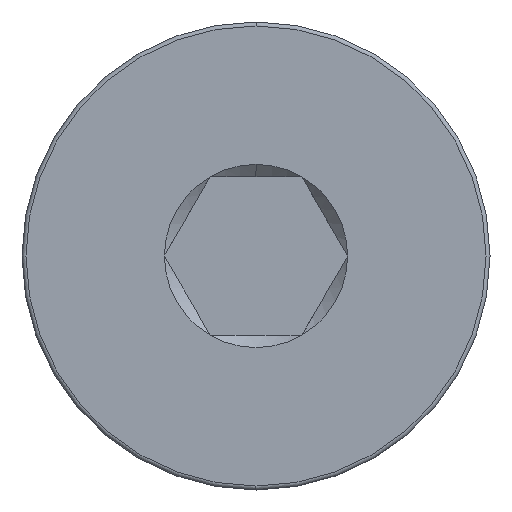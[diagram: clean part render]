
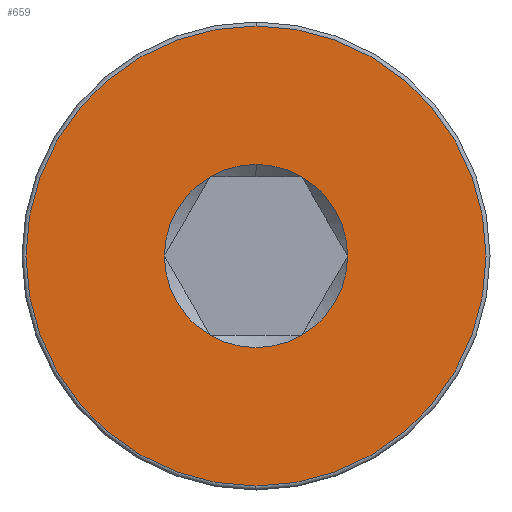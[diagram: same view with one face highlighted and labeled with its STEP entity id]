
A CAD part, left-side view. The second image highlights one B-rep face of the part: STEP entity #659.
In plain terms, the highlighted planar face has unit normal (-1, 0, 0).
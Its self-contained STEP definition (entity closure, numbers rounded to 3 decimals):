
#3 = EDGE_LOOP ( 'NONE', ( #69, #205, #587, #312, #532, #55, #679 ) ) ;
#9 = DIRECTION ( 'NONE',  ( 1., 0., 0. ) ) ;
#10 = ORIENTED_EDGE ( 'NONE', *, *, #722, .T. ) ;
#13 = CIRCLE ( 'NONE', #245, 2.309 ) ;
#22 = VERTEX_POINT ( 'NONE', #33 ) ;
#23 = DIRECTION ( 'NONE',  ( 1., 0., 0. ) ) ;
#33 = CARTESIAN_POINT ( 'NONE',  ( 0., 1.155, -2. ) ) ;
#50 = PLANE ( 'NONE',  #527 ) ;
#55 = ORIENTED_EDGE ( 'NONE', *, *, #549, .T. ) ;
#58 = FACE_OUTER_BOUND ( 'NONE', #327, .T. ) ;
#64 = DIRECTION ( 'NONE',  ( -1., 0., 0. ) ) ;
#65 = EDGE_CURVE ( 'NONE', #162, #370, #617, .T. ) ;
#69 = ORIENTED_EDGE ( 'NONE', *, *, #686, .T. ) ;
#71 = EDGE_CURVE ( 'NONE', #745, #299, #13, .T. ) ;
#76 = CARTESIAN_POINT ( 'NONE',  ( 0., 0., 0. ) ) ;
#95 = DIRECTION ( 'NONE',  ( -1., 0., 0. ) ) ;
#102 = CARTESIAN_POINT ( 'NONE',  ( 0., 0., 0. ) ) ;
#117 = CIRCLE ( 'NONE', #669, 5.8 ) ;
#124 = DIRECTION ( 'NONE',  ( 1., 0., 0. ) ) ;
#162 = VERTEX_POINT ( 'NONE', #315 ) ;
#167 = AXIS2_PLACEMENT_3D ( 'NONE', #400, #707, #645 ) ;
#169 = CARTESIAN_POINT ( 'NONE',  ( 0., 2.309, 0. ) ) ;
#176 = VERTEX_POINT ( 'NONE', #169 ) ;
#193 = AXIS2_PLACEMENT_3D ( 'NONE', #725, #124, #242 ) ;
#203 = AXIS2_PLACEMENT_3D ( 'NONE', #609, #798, #248 ) ;
#205 = ORIENTED_EDGE ( 'NONE', *, *, #318, .T. ) ;
#242 = DIRECTION ( 'NONE',  ( 0., 0., -1. ) ) ;
#245 = AXIS2_PLACEMENT_3D ( 'NONE', #102, #776, #341 ) ;
#248 = DIRECTION ( 'NONE',  ( 0., 0., -1. ) ) ;
#259 = CARTESIAN_POINT ( 'NONE',  ( 0., -2.309, 0. ) ) ;
#295 = EDGE_CURVE ( 'NONE', #22, #176, #709, .T. ) ;
#299 = VERTEX_POINT ( 'NONE', #496 ) ;
#312 = ORIENTED_EDGE ( 'NONE', *, *, #761, .T. ) ;
#315 = CARTESIAN_POINT ( 'NONE',  ( 0., 0., 5.8 ) ) ;
#317 = CARTESIAN_POINT ( 'NONE',  ( 0., 0., -5.8 ) ) ;
#318 = EDGE_CURVE ( 'NONE', #414, #426, #488, .T. ) ;
#321 = CARTESIAN_POINT ( 'NONE',  ( 0., 0., 2.309 ) ) ;
#323 = EDGE_CURVE ( 'NONE', #426, #791, #696, .T. ) ;
#327 = EDGE_LOOP ( 'NONE', ( #448, #10 ) ) ;
#341 = DIRECTION ( 'NONE',  ( 0., 0., -1. ) ) ;
#370 = VERTEX_POINT ( 'NONE', #317 ) ;
#371 = FACE_BOUND ( 'NONE', #3, .T. ) ;
#389 = DIRECTION ( 'NONE',  ( 0., 0., -1. ) ) ;
#393 = CARTESIAN_POINT ( 'NONE',  ( 0., 1.155, 2. ) ) ;
#398 = AXIS2_PLACEMENT_3D ( 'NONE', #438, #506, #389 ) ;
#400 = CARTESIAN_POINT ( 'NONE',  ( 0., 0., 0. ) ) ;
#414 = VERTEX_POINT ( 'NONE', #393 ) ;
#424 = AXIS2_PLACEMENT_3D ( 'NONE', #646, #95, #784 ) ;
#426 = VERTEX_POINT ( 'NONE', #321 ) ;
#438 = CARTESIAN_POINT ( 'NONE',  ( 0., 0., 0. ) ) ;
#448 = ORIENTED_EDGE ( 'NONE', *, *, #65, .T. ) ;
#469 = CIRCLE ( 'NONE', #742, 2.309 ) ;
#488 = CIRCLE ( 'NONE', #750, 2.309 ) ;
#491 = CIRCLE ( 'NONE', #167, 2.309 ) ;
#496 = CARTESIAN_POINT ( 'NONE',  ( 0., -1.155, -2. ) ) ;
#506 = DIRECTION ( 'NONE',  ( 1., 0., 0. ) ) ;
#527 = AXIS2_PLACEMENT_3D ( 'NONE', #608, #64, #667 ) ;
#532 = ORIENTED_EDGE ( 'NONE', *, *, #71, .T. ) ;
#540 = DIRECTION ( 'NONE',  ( -1., 0., 0. ) ) ;
#549 = EDGE_CURVE ( 'NONE', #299, #22, #491, .T. ) ;
#555 = DIRECTION ( 'NONE',  ( 0., 0., -1. ) ) ;
#587 = ORIENTED_EDGE ( 'NONE', *, *, #323, .T. ) ;
#606 = CIRCLE ( 'NONE', #193, 2.309 ) ;
#608 = CARTESIAN_POINT ( 'NONE',  ( 0., 0., 0. ) ) ;
#609 = CARTESIAN_POINT ( 'NONE',  ( 0., 0., 0. ) ) ;
#612 = CARTESIAN_POINT ( 'NONE',  ( 0., 0., 0. ) ) ;
#615 = CARTESIAN_POINT ( 'NONE',  ( 0., -1.155, 2. ) ) ;
#617 = CIRCLE ( 'NONE', #424, 5.8 ) ;
#645 = DIRECTION ( 'NONE',  ( 0., 0., -1. ) ) ;
#646 = CARTESIAN_POINT ( 'NONE',  ( 0., 0., 0. ) ) ;
#659 = ADVANCED_FACE ( 'NONE', ( #58, #371 ), #50, .T. ) ;
#667 = DIRECTION ( 'NONE',  ( 0., 0., 1. ) ) ;
#669 = AXIS2_PLACEMENT_3D ( 'NONE', #612, #540, #792 ) ;
#679 = ORIENTED_EDGE ( 'NONE', *, *, #295, .T. ) ;
#686 = EDGE_CURVE ( 'NONE', #176, #414, #606, .T. ) ;
#696 = CIRCLE ( 'NONE', #398, 2.309 ) ;
#707 = DIRECTION ( 'NONE',  ( 1., 0., 0. ) ) ;
#709 = CIRCLE ( 'NONE', #203, 2.309 ) ;
#722 = EDGE_CURVE ( 'NONE', #370, #162, #117, .T. ) ;
#725 = CARTESIAN_POINT ( 'NONE',  ( 0., 0., 0. ) ) ;
#742 = AXIS2_PLACEMENT_3D ( 'NONE', #764, #23, #555 ) ;
#745 = VERTEX_POINT ( 'NONE', #259 ) ;
#750 = AXIS2_PLACEMENT_3D ( 'NONE', #76, #9, #765 ) ;
#761 = EDGE_CURVE ( 'NONE', #791, #745, #469, .T. ) ;
#764 = CARTESIAN_POINT ( 'NONE',  ( 0., 0., 0. ) ) ;
#765 = DIRECTION ( 'NONE',  ( 0., 0., -1. ) ) ;
#776 = DIRECTION ( 'NONE',  ( 1., 0., 0. ) ) ;
#784 = DIRECTION ( 'NONE',  ( 0., 0., 1. ) ) ;
#791 = VERTEX_POINT ( 'NONE', #615 ) ;
#792 = DIRECTION ( 'NONE',  ( 0., 0., 1. ) ) ;
#798 = DIRECTION ( 'NONE',  ( 1., 0., 0. ) ) ;
